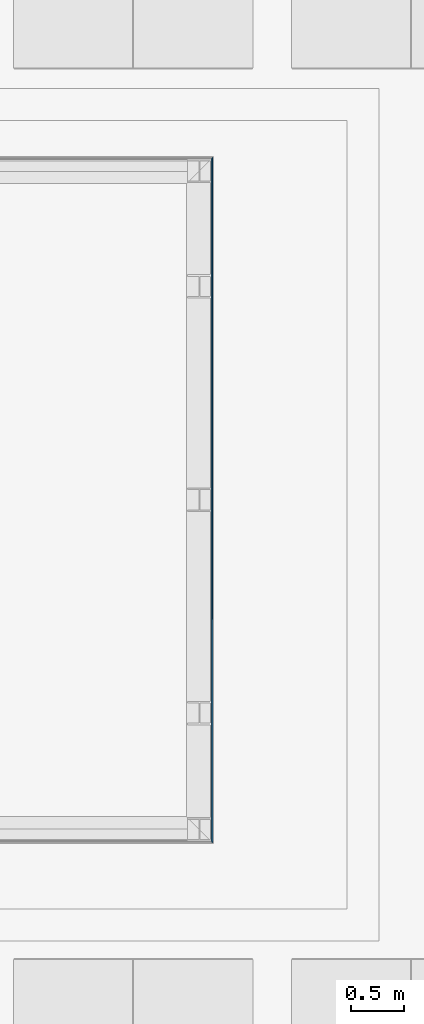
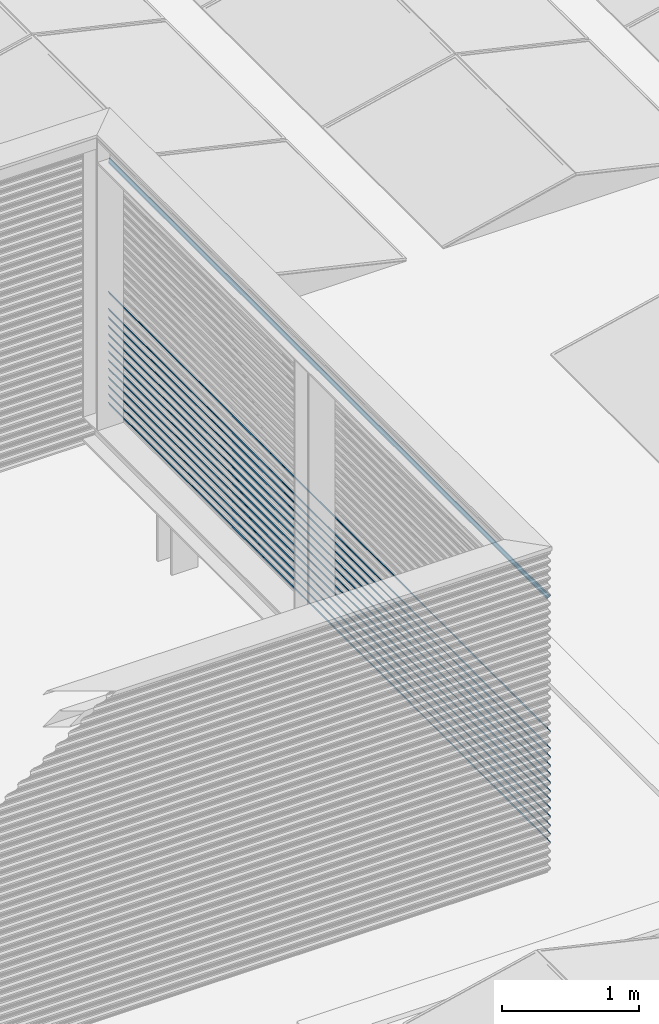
# One storey, part 40 of 63: 14 building element parts, 1 element without a shape of its own.
"""IFC2X3 building model written with IfcOpenShell, lengths in millimetres."""

from ifc_helpers import new_model, entity, si_unit, converted_unit, derived_unit, money_unit, direction, frame, origin_with_axes, place, context, subcontext, project, spatial, faceted_brep, material, type_object, element, aggregate, save


model = new_model("IFC2X3")

# Units and contexts
model_context = context("Model", 3, precision=0.01, world=origin_with_axes(), true_north=direction((0.0, 1.0)))
body_context = subcontext(model_context, "Body", "Model", "MODEL_VIEW")
ifc_project = project(units=[si_unit("LENGTHUNIT", "METRE", prefix="MILLI"), si_unit("AREAUNIT", "SQUARE_METRE"), si_unit("VOLUMEUNIT", "CUBIC_METRE"), converted_unit("PLANEANGLEUNIT", "DEGREE", entity("IfcPlaneAngleMeasure", 0.0174532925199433), si_unit("PLANEANGLEUNIT", "RADIAN"), dimensions=[0, 0, 0, 0, 0, 0, 0]), money_unit("EUR"), converted_unit("TIMEUNIT", "Year", entity("IfcTimeMeasure", 31557600.0), si_unit("TIMEUNIT", "SECOND"), dimensions=[0, 0, 1, 0, 0, 0, 0]), si_unit("MASSUNIT", "GRAM", prefix="KILO"), si_unit("THERMODYNAMICTEMPERATUREUNIT", "DEGREE_CELSIUS"), si_unit("LUMINOUSINTENSITYUNIT", "LUMEN"), si_unit("ENERGYUNIT", "JOULE", prefix="MEGA"), derived_unit("THERMALCONDUCTANCEUNIT", [(si_unit("POWERUNIT", "WATT"), 1), (si_unit("LENGTHUNIT", "METRE"), -1), (si_unit("THERMODYNAMICTEMPERATUREUNIT", "KELVIN"), -1)]), derived_unit("SPECIFICHEATCAPACITYUNIT", [(si_unit("ENERGYUNIT", "JOULE"), 1), (si_unit("MASSUNIT", "GRAM", prefix="KILO"), -1), (si_unit("THERMODYNAMICTEMPERATUREUNIT", "KELVIN"), -1)]), derived_unit("MASSDENSITYUNIT", [(si_unit("MASSUNIT", "GRAM", prefix="KILO"), 1), (si_unit("VOLUMEUNIT", "CUBIC_METRE"), -1)])], contexts=[model_context])

# Site, building, storey
site_placement = place(None, origin_with_axes())
site = spatial("IfcSite", under=ifc_project, at=site_placement, Name="<site naam>", CompositionType="ELEMENT")
building_placement = place(site_placement, origin_with_axes())
building = spatial("IfcBuilding", under=site, at=building_placement, Name="<Naam gebouw>", CompositionType="ELEMENT")
storey_placement = place(building_placement, frame((0.0, 0.0, 12770.0), z_axis=(0.0, 0.0, 1.0), x_axis=(1.0, 0.0, 0.0)))
storey = spatial("IfcBuildingStorey", under=building, at=storey_placement, Name="04 4e verdieping", CompositionType="ELEMENT", Elevation=12770.0)

# Wall, building element parts
wall_type = type_object("IfcWallType", Name="Gevelbeplating golf 18 x 2900", PredefinedType="NOTDEFINED")
wall_placement = place(storey_placement, frame((58128.00007858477, 6781.999921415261, 299.9552842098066), z_axis=(0.0, 0.0, 1.0), x_axis=(0.0, 1.0, 0.0)))
wall = element("IfcWall", 1, at=wall_placement, inside=storey, type_object=wall_type, Name="47_Binnenwand_Gevelbeplating")
ifc_material = material(Name="gevelafwerking type 3 - Aluminium RAL1036")
building_element_part_1_placement = place(wall_placement, origin_with_axes())
building_element_part_1 = element("IfcBuildingElementPart", 2, at=building_element_part_1_placement, material=ifc_material, Name="gevelafwerking type 3 - Aluminium RAL1036", context=body_context, shape_type="Brep", body=[
    faceted_brep([(3.340134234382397, 2.257351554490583, 276.4318107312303), (3.116471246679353, 2.188220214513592, 276.1123255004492), (0.9999928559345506, -7.144066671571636e-06, 266.0), (6436.000180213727, -7.144066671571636e-06, 266.0000074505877), (6433.742836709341, 2.257351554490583, 276.4318107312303), (9.041576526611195, 8.209523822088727, 284.5758788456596), (9.041576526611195, 9.041576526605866, 284.5758788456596), (3.116471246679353, 3.116471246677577, 276.1123255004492), (0.9999928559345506, 0.9999928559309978, 266.0), (6436.000180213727, 0.9999928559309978, 266.0000074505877), (6433.742836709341, 3.340134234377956, 276.4318107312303), (6433.811965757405, 3.116471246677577, 276.1123255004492), (6427.444962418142, 8.555245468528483, 285.0489101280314), (9.39813366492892, 8.555245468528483, 285.0489101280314), (15.62925573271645, 14.54421164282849, 293.3155113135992), (15.62925573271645, 15.62925573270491, 293.3155113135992), (6427.790676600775, 9.041576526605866, 284.5758788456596), (6427.444962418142, 9.398133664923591, 285.0489101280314), (6421.224997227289, 14.77518995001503, 293.6343340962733), (15.69999800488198, 14.77518995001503, 293.6343340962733), (17.99999285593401, 16.99999047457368, 304.0000000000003), (17.99999285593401, 17.99999285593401, 304.0000000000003), (6421.455977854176, 15.62925573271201, 293.3155113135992), (6421.224997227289, 15.69999800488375, 293.6343340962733), (6419.000198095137, 16.99999047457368, 304.0000208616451), (6419.000198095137, 17.99999285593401, 304.0000208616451)], [[[0, 1, 2, 3, 4]], [[1, 0, 5, 6, 7]], [[8, 2, 1, 7]], [[2, 8, 9, 3]], [[10, 4, 3, 9, 11]], [[5, 0, 4, 12, 13]], [[5, 13, 14, 15, 6]], [[7, 6, 16, 10, 11]], [[8, 7, 11, 9]], [[17, 12, 4, 10, 16]], [[14, 13, 12, 18, 19]], [[14, 19, 20, 21, 15]], [[6, 15, 22, 17, 16]], [[23, 18, 12, 17, 22]], [[20, 19, 18, 24]], [[21, 20, 24, 25]], [[15, 21, 25, 23, 22]], [[25, 24, 18, 23]]]),
])
building_element_part_2_placement = place(wall_placement, origin_with_axes())
building_element_part_2 = element("IfcBuildingElementPart", 3, at=building_element_part_2_placement, material=ifc_material, Name="gevelafwerking type 3 - Aluminium RAL1036", context=body_context, shape_type="Brep", body=[
    faceted_brep([(3.340120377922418, 2.257349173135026, 352.4317943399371), (3.116468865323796, 2.188221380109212, 352.1123255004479), (0.9999904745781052, -9.525422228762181e-06, 342.0000000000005), (6436.000175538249, -9.525422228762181e-06, 341.9999910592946), (6433.742836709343, 2.257349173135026, 352.4317943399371), (9.04157414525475, 8.209533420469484, 360.5758788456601), (9.04157414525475, 9.041574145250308, 360.5758788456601), (3.116468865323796, 3.11646886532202, 352.1123255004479), (0.9999904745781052, 0.9999904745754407, 342.0000000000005), (6436.000175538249, 0.9999904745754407, 341.9999910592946), (6433.742836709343, 3.340120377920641, 352.4317943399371), (6433.811957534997, 3.11646886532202, 352.1123255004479), (6427.444962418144, 8.555243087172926, 361.0488937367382), (9.398118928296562, 8.555243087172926, 361.0488937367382), (15.62925335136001, 14.54422113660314, 369.3155113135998), (15.62925335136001, 15.62925335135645, 369.3155113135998), (6427.790664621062, 9.041574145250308, 360.5758788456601), (6427.444962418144, 9.398118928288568, 361.0488937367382), (6421.224997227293, 14.77518756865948, 369.6343177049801), (15.69999198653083, 14.77518756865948, 369.6343177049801), (17.99999047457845, 16.99998809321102, 380.0000000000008), (17.99999047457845, 17.99999047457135, 380.0000000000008), (6421.455965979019, 15.62925335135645, 369.3155113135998), (6421.224997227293, 15.69999198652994, 369.6343177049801), (6419.000198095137, 16.99998809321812, 380.000004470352), (6419.000198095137, 17.99999047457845, 380.000004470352)], [[[0, 1, 2, 3, 4]], [[1, 0, 5, 6, 7]], [[8, 2, 1, 7]], [[2, 8, 9, 3]], [[10, 4, 3, 9, 11]], [[5, 0, 4, 12, 13]], [[5, 13, 14, 15, 6]], [[7, 6, 16, 10, 11]], [[8, 7, 11, 9]], [[17, 12, 4, 10, 16]], [[14, 13, 12, 18, 19]], [[14, 19, 20, 21, 15]], [[6, 15, 22, 17, 16]], [[23, 18, 12, 17, 22]], [[20, 19, 18, 24]], [[21, 20, 24, 25]], [[15, 21, 25, 23, 22]], [[25, 24, 18, 23]]]),
])
building_element_part_3_placement = place(wall_placement, origin_with_axes())
building_element_part_3 = element("IfcBuildingElementPart", 4, at=building_element_part_3_placement, material=ifc_material, Name="gevelafwerking type 3 - Aluminium RAL1036", context=body_context, shape_type="Brep", body=[
    faceted_brep([(3.340108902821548, 2.257349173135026, 428.431777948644), (3.116468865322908, 2.188215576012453, 428.1123255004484), (0.9999904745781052, -9.525422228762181e-06, 417.9999999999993), (6436.000180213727, -9.525422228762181e-06, 418.0000178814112), (6433.742841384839, 2.257349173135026, 428.431777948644), (9.04157414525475, 8.209545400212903, 436.5758788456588), (9.04157414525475, 9.041574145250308, 436.5758788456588), (3.116468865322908, 3.11646886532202, 428.1123255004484), (0.9999904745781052, 0.9999904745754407, 417.9999999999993), (6436.000180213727, 0.9999904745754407, 418.0000178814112), (6433.742841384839, 3.340108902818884, 428.431777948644), (6433.81196801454, 3.11646886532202, 428.1123255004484), (6427.444962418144, 8.555243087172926, 437.0488773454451), (9.398106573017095, 8.555243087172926, 437.0488773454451), (15.62925335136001, 14.54423301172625, 445.3155113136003), (15.62925335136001, 15.62925335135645, 445.3155113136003), (6427.790657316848, 9.041574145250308, 436.5758788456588), (6427.444962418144, 9.398106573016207, 437.0488773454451), (6421.224997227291, 14.77518756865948, 445.634301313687), (15.69998834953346, 14.77518756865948, 445.634301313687), (17.99999047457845, 16.99998809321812, 455.9999999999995), (17.99999047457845, 17.99999047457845, 455.9999999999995), (6421.455954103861, 15.62925335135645, 445.3155113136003), (6421.224997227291, 15.69998834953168, 445.634301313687), (6419.000198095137, 16.99998809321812, 455.9999880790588), (6419.000198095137, 17.99999047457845, 455.9999880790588)], [[[0, 1, 2, 3, 4]], [[1, 0, 5, 6, 7]], [[8, 2, 1, 7]], [[2, 8, 9, 3]], [[10, 4, 3, 9, 11]], [[5, 0, 4, 12, 13]], [[5, 13, 14, 15, 6]], [[7, 6, 16, 10, 11]], [[8, 7, 11, 9]], [[17, 12, 4, 10, 16]], [[14, 13, 12, 18, 19]], [[14, 19, 20, 21, 15]], [[6, 15, 22, 17, 16]], [[23, 18, 12, 17, 22]], [[20, 19, 18, 24]], [[21, 20, 24, 25]], [[15, 21, 25, 23, 22]], [[25, 24, 18, 23]]]),
])
building_element_part_4_placement = place(wall_placement, origin_with_axes())
building_element_part_4 = element("IfcBuildingElementPart", 5, at=building_element_part_4_placement, material=ifc_material, Name="gevelafwerking type 3 - Aluminium RAL1036", context=body_context, shape_type="Brep", body=[
    faceted_brep([(3.340125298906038, 2.257346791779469, 504.4318047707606), (3.116466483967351, 2.188216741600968, 504.1123255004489), (0.999988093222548, -1.190677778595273e-05, 493.9999999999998), (6436.000180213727, -1.190677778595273e-05, 494.0000014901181), (6433.742836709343, 2.257346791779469, 504.4318047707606), (9.041571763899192, 8.209523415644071, 512.5758788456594), (9.041571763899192, 9.041571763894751, 512.5758788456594), (3.116466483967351, 3.116466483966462, 504.1123255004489), (0.999988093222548, 0.9999880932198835, 493.9999999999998), (6436.000180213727, 0.9999880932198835, 494.0000014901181), (6433.742836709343, 3.34012529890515, 504.4318047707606), (6433.811964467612, 3.116466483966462, 504.1123255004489), (6427.444962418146, 8.555240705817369, 513.0489041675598), (9.398124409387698, 8.555240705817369, 513.0489041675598), (15.62925097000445, 14.54421119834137, 521.315511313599), (15.62925097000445, 15.6292509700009, 521.315511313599), (6427.790672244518, 9.041571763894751, 512.5758788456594), (6427.444962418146, 9.39812440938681, 513.0489041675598), (6421.224997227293, 14.77518518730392, 521.6343281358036), (15.69999191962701, 14.77518518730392, 521.6343281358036), (17.99998809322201, 16.99998571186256, 532.0), (17.99998809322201, 17.9999880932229, 532.0), (6421.45597353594, 15.6292509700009, 521.315511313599), (6421.224997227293, 15.69999191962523, 521.6343281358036), (6419.000198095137, 16.99998571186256, 532.0000149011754), (6419.000198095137, 17.9999880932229, 532.0000149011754)], [[[0, 1, 2, 3, 4]], [[1, 0, 5, 6, 7]], [[8, 2, 1, 7]], [[2, 8, 9, 3]], [[10, 4, 3, 9, 11]], [[5, 0, 4, 12, 13]], [[5, 13, 14, 15, 6]], [[7, 6, 16, 10, 11]], [[8, 7, 11, 9]], [[17, 12, 4, 10, 16]], [[14, 13, 12, 18, 19]], [[14, 19, 20, 21, 15]], [[6, 15, 22, 17, 16]], [[23, 18, 12, 17, 22]], [[20, 19, 18, 24]], [[21, 20, 24, 25]], [[15, 21, 25, 23, 22]], [[25, 24, 18, 23]]]),
])
building_element_part_5_placement = place(wall_placement, origin_with_axes())
building_element_part_5 = element("IfcBuildingElementPart", 6, at=building_element_part_5_placement, material=ifc_material, Name="gevelafwerking type 3 - Aluminium RAL1036", context=body_context, shape_type="Brep", body=[
    faceted_brep([(3.340111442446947, 2.257344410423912, 580.4317883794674), (3.116464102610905, 2.188217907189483, 580.1123255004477), (0.9999857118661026, -1.428813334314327e-05, 570.0000000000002), (6436.000223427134, -1.428813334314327e-05, 569.9999850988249), (6433.742841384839, 2.257344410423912, 580.4317883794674), (9.041569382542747, 8.209533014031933, 588.5758788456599), (9.041569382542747, 9.041569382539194, 588.5758788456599), (3.116464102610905, 3.116464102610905, 580.1123255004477), (0.9999857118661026, 0.9999857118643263, 570.0000000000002), (6436.000223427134, 0.9999857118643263, 569.9999850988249), (6433.742841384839, 3.34011144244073, 580.4317883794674), (6433.811971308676, 3.116464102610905, 580.1123255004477), (6427.444962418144, 8.555238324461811, 589.0488877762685), (9.398109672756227, 8.555238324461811, 589.0488877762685), (15.629248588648, 14.54422069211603, 597.3155113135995), (15.629248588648, 15.62924858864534, 597.3155113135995), (6427.790664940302, 9.041569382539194, 588.5758788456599), (6427.444962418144, 9.398109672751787, 589.0488877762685), (6421.224997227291, 14.77518280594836, 597.6343117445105), (15.69998590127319, 14.77518280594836, 597.6343117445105), (17.99998571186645, 16.99998333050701, 608.0000000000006), (17.99998571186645, 17.99998571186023, 608.0000000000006), (6421.455961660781, 15.62924858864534, 597.3155113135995), (6421.224997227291, 15.69998590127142, 597.6343117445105), (6419.000198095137, 16.99998333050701, 607.9999985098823), (6419.000198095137, 17.99998571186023, 607.9999985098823)], [[[0, 1, 2, 3, 4]], [[1, 0, 5, 6, 7]], [[8, 2, 1, 7]], [[2, 8, 9, 3]], [[10, 4, 3, 9, 11]], [[5, 0, 4, 12, 13]], [[5, 13, 14, 15, 6]], [[7, 6, 16, 10, 11]], [[8, 7, 11, 9]], [[17, 12, 4, 10, 16]], [[14, 13, 12, 18, 19]], [[14, 19, 20, 21, 15]], [[6, 15, 22, 17, 16]], [[23, 18, 12, 17, 22]], [[20, 19, 18, 24]], [[21, 20, 24, 25]], [[15, 21, 25, 23, 22]], [[25, 24, 18, 23]]]),
])
building_element_part_6_placement = place(wall_placement, origin_with_axes())
building_element_part_6 = element("IfcBuildingElementPart", 7, at=building_element_part_6_placement, material=ifc_material, Name="gevelafwerking type 3 - Aluminium RAL1036", context=body_context, shape_type="Brep", body=[
    faceted_brep([(3.340097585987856, 2.257342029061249, 656.4317719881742), (3.116461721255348, 2.188209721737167, 656.1123255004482), (0.9999833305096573, -1.666949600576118e-05, 645.999999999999), (6436.000218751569, -1.666949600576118e-05, 646.0000119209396), (6433.742841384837, 2.257342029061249, 656.4317719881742), (9.041567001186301, 8.209542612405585, 664.5758788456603), (9.041567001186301, 9.041567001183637, 664.5758788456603), (3.116461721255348, 3.116461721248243, 656.1123255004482), (0.9999833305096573, 0.9999833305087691, 645.999999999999), (6436.000218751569, 0.9999833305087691, 646.0000119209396), (6433.742841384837, 3.340097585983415, 656.4317719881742), (6433.811972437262, 3.116461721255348, 656.1123255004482), (6427.444962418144, 8.555235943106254, 665.0488713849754), (9.398094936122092, 8.555235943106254, 665.0488713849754), (15.62924620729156, 14.54423018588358, 673.3155113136), (15.62924620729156, 15.62924620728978, 673.3155113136), (6427.790652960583, 9.041567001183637, 664.5758788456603), (6427.444962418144, 9.398094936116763, 665.0488713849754), (6421.224997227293, 14.7751804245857, 673.6342953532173), (15.69997988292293, 14.7751804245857, 673.6342953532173), (17.99998333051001, 16.99998094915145, 683.9999999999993), (17.99998333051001, 17.99998333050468, 683.9999999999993), (6421.455949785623, 15.62924620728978, 673.3155113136), (6421.224997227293, 15.6999798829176, 673.6342953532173), (6419.000198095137, 16.99998094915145, 683.9999821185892), (6419.000198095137, 17.99998333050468, 683.9999821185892)], [[[0, 1, 2, 3, 4]], [[1, 0, 5, 6, 7]], [[8, 2, 1, 7]], [[2, 8, 9, 3]], [[10, 4, 3, 9, 11]], [[5, 0, 4, 12, 13]], [[5, 13, 14, 15, 6]], [[7, 6, 16, 10, 11]], [[8, 7, 11, 9]], [[17, 12, 4, 10, 16]], [[14, 13, 12, 18, 19]], [[14, 19, 20, 21, 15]], [[6, 15, 22, 17, 16]], [[23, 18, 12, 17, 22]], [[20, 19, 18, 24]], [[21, 20, 24, 25]], [[15, 21, 25, 23, 22]], [[25, 24, 18, 23]]]),
])
building_element_part_7_placement = place(wall_placement, origin_with_axes())
building_element_part_7 = element("IfcBuildingElementPart", 8, at=building_element_part_7_placement, material=ifc_material, Name="gevelafwerking type 3 - Aluminium RAL1036", context=body_context, shape_type="Brep", body=[
    faceted_brep([(3.340100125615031, 2.257337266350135, 808.4317824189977), (3.116456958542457, 2.188212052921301, 808.1123255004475), (0.9999785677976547, -2.143220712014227e-05, 798.0), (6436.000223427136, -2.143220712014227e-05, 797.9999791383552), (6433.742841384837, 2.257337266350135, 808.4317824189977), (9.041562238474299, 8.209530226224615, 816.5758788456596), (9.041562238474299, 9.041562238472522, 816.5758788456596), (3.116456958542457, 3.116456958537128, 808.1123255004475), (0.9999785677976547, 0.9999785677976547, 798.0), (6436.000223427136, 0.9999785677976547, 797.9999791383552), (6433.742841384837, 3.340100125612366, 808.4317824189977), (6433.811970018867, 3.116456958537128, 808.1123255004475), (6427.444962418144, 8.555231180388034, 817.048881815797), (9.398098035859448, 8.555231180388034, 817.048881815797), (15.62924144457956, 14.54421786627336, 825.3155113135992), (15.62924144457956, 15.62924144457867, 825.3155113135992), (6427.790660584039, 9.041562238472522, 816.5758788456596), (6427.444962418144, 9.398098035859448, 817.048881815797), (6421.224997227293, 14.77517566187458, 825.6343057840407), (15.69997743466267, 14.77517566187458, 825.6343057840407), (17.999978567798, 16.99997618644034, 836.0000000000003), (17.999978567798, 17.99997856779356, 836.0000000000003), (6421.455957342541, 15.62924144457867, 825.3155113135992), (6421.224997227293, 15.69997743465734, 825.6343057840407), (6419.000198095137, 16.99997618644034, 835.9999925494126), (6419.000198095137, 17.99997856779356, 835.9999925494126)], [[[0, 1, 2, 3, 4]], [[1, 0, 5, 6, 7]], [[8, 2, 1, 7]], [[2, 8, 9, 3]], [[10, 4, 3, 9, 11]], [[5, 0, 4, 12, 13]], [[5, 13, 14, 15, 6]], [[7, 6, 16, 10, 11]], [[8, 7, 11, 9]], [[17, 12, 4, 10, 16]], [[14, 13, 12, 18, 19]], [[14, 19, 20, 21, 15]], [[6, 15, 22, 17, 16]], [[23, 18, 12, 17, 22]], [[20, 19, 18, 24]], [[21, 20, 24, 25]], [[15, 21, 25, 23, 22]], [[25, 24, 18, 23]]]),
])
building_element_part_8_placement = place(wall_placement, origin_with_axes())
building_element_part_8 = element("IfcBuildingElementPart", 9, at=building_element_part_8_placement, material=ifc_material, Name="gevelafwerking type 3 - Aluminium RAL1036", context=body_context, shape_type="Brep", body=[
    faceted_brep([(3.340116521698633, 2.257334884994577, 884.4318092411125), (3.1164545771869, 2.188203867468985, 884.1123255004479), (0.9999761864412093, -2.381356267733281e-05, 874.0000000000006), (6436.000223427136, -2.381356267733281e-05, 874.00000596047), (6433.742841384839, 2.257334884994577, 884.4318092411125), (9.041559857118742, 8.209508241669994, 892.5758788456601), (9.041559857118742, 9.041559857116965, 892.5758788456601), (3.1164545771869, 3.116454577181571, 884.1123255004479), (0.9999761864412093, 0.9999761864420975, 874.0000000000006), (6436.000223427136, 0.9999761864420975, 874.00000596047), (6433.742841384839, 3.340116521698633, 884.4318092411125), (6433.811975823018, 3.116454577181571, 884.1123255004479), (6427.444962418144, 8.555228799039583, 893.0489086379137), (9.398115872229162, 8.555228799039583, 893.0489086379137), (15.629239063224, 14.54419605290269, 901.3155113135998), (15.629239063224, 15.62923906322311, 901.3155113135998), (6427.790680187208, 9.041559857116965, 892.5758788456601), (6427.444962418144, 9.39811587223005, 893.0489086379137), (6421.224997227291, 14.77517328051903, 901.6343326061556), (15.69998100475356, 14.77517328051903, 901.6343326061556), (17.99997618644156, 16.99997380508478, 911.9999999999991), (17.99997618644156, 17.999976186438, 911.9999999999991), (6421.455976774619, 15.62923906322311, 901.3155113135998), (6421.224997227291, 15.6999810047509, 901.6343326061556), (6419.000198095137, 16.99997380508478, 912.0000193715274), (6419.000198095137, 17.999976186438, 912.0000193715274)], [[[0, 1, 2, 3, 4]], [[1, 0, 5, 6, 7]], [[8, 2, 1, 7]], [[2, 8, 9, 3]], [[10, 4, 3, 9, 11]], [[5, 0, 4, 12, 13]], [[5, 13, 14, 15, 6]], [[7, 6, 16, 10, 11]], [[8, 7, 11, 9]], [[17, 12, 4, 10, 16]], [[14, 13, 12, 18, 19]], [[14, 19, 20, 21, 15]], [[6, 15, 22, 17, 16]], [[23, 18, 12, 17, 22]], [[20, 19, 18, 24]], [[21, 20, 24, 25]], [[15, 21, 25, 23, 22]], [[25, 24, 18, 23]]]),
])
building_element_part_9_placement = place(wall_placement, origin_with_axes())
building_element_part_9 = element("IfcBuildingElementPart", 10, at=building_element_part_9_placement, material=ifc_material, Name="gevelafwerking type 3 - Aluminium RAL1036", context=body_context, shape_type="Brep", body=[
    faceted_brep([(0.9999309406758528, 0.9999309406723, 2469.999999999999), (0.9999309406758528, -6.905932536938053e-05, 2469.999999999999), (6436.000266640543, -6.905932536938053e-05, 2470.000007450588), (6436.000266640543, 0.9999309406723, 2470.000007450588), (3.116409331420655, 2.188158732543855, 2459.887674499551), (3.116409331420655, 3.116409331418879, 2459.887674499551), (3.340061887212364, 2.257289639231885, 2459.568204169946), (6433.742879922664, 2.257289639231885, 2459.568204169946), (6433.742879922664, 3.340061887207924, 2459.568204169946), (6433.812007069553, 3.116409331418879, 2459.887674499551), (9.041514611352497, 8.209474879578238, 2451.424121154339), (9.041514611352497, 9.041514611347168, 2451.424121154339), (9.39806051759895, 8.555183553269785, 2450.951104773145), (6427.445005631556, 8.555183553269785, 2450.951104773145), (6427.790708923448, 9.041514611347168, 2451.424121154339), (6427.445005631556, 9.398060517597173, 2450.951104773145), (15.62919381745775, 15.62919381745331, 2442.6844886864), (15.62919381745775, 14.54415891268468, 2442.6844886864), (15.69993278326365, 14.77512803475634, 2442.365680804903), (6421.225040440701, 14.77512803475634, 2442.365680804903), (6421.456010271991, 15.62919381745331, 2442.6844886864), (6421.225040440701, 15.69993278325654, 2442.365680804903), (17.99993094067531, 17.99993094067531, 2432.0), (17.99993094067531, 16.99992855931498, 2432.0), (6419.000241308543, 16.99992855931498, 2431.999994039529), (6419.000241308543, 17.99993094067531, 2431.999994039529)], [[[0, 1, 2, 3]], [[4, 1, 0, 5]], [[4, 6, 7, 2, 1]], [[8, 9, 3, 2, 7]], [[5, 0, 3, 9]], [[10, 6, 4, 5, 11]], [[10, 12, 13, 7, 6]], [[11, 5, 9, 8, 14]], [[15, 14, 8, 7, 13]], [[12, 10, 11, 16, 17]], [[17, 18, 19, 13, 12]], [[16, 11, 14, 15, 20]], [[21, 20, 15, 13, 19]], [[18, 17, 16, 22, 23]], [[18, 23, 24, 19]], [[22, 16, 20, 21, 25]], [[24, 25, 21, 19]], [[23, 22, 25, 24]]]),
])
building_element_part_10_placement = place(wall_placement, origin_with_axes())
building_element_part_10 = element("IfcBuildingElementPart", 11, at=building_element_part_10_placement, material=ifc_material, Name="gevelafwerking type 3 - Aluminium RAL1036", context=body_context, shape_type="Brep", body=[
    faceted_brep([(3.340113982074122, 2.257339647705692, 732.4317988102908), (3.116459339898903, 2.188210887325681, 732.1123255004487), (0.9999809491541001, -1.905085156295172e-05, 721.9999999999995), (6436.000223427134, -1.905085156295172e-05, 721.9999955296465), (6433.742841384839, 2.257339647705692, 732.4317988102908), (9.041564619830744, 8.209520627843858, 740.5758788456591), (9.041564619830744, 9.04156461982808, 740.5758788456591), (3.116459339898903, 3.116459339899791, 732.1123255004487), (0.9999809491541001, 0.9999809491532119, 721.9999999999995), (6436.000223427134, 0.9999809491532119, 721.9999955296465), (6433.742841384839, 3.340113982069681, 732.4317988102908), (6433.811973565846, 3.116459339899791, 732.1123255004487), (6427.44496241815, 8.555233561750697, 741.0488982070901), (9.398112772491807, 8.555233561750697, 741.0488982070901), (15.629243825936, 14.54420837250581, 749.3155113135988), (15.629243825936, 15.62924382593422, 749.3155113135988), (6427.790672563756, 9.04156461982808, 740.5758788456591), (6427.44496241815, 9.398112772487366, 741.0488982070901), (6421.224997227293, 14.77517804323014, 749.6343221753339), (15.69998345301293, 14.77517804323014, 749.6343221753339), (17.99998094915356, 16.99997856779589, 759.9999999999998), (17.99998094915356, 17.99998094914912, 759.9999999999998), (6421.455969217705, 15.62924382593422, 749.3155113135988), (6421.224997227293, 15.69998345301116, 749.6343221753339), (6419.000198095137, 16.99997856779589, 760.0000089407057), (6419.000198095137, 17.99998094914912, 760.0000089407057)], [[[0, 1, 2, 3, 4]], [[1, 0, 5, 6, 7]], [[8, 2, 1, 7]], [[2, 8, 9, 3]], [[10, 4, 3, 9, 11]], [[5, 0, 4, 12, 13]], [[5, 13, 14, 15, 6]], [[7, 6, 16, 10, 11]], [[8, 7, 11, 9]], [[17, 12, 4, 10, 16]], [[14, 13, 12, 18, 19]], [[14, 19, 20, 21, 15]], [[6, 15, 22, 17, 16]], [[23, 18, 12, 17, 22]], [[20, 19, 18, 24]], [[21, 20, 24, 25]], [[15, 21, 25, 23, 22]], [[25, 24, 18, 23]]]),
])
building_element_part_11_placement = place(wall_placement, origin_with_axes())
building_element_part_11 = element("IfcBuildingElementPart", 12, at=building_element_part_11_placement, material=ifc_material, Name="gevelafwerking type 3 - Aluminium RAL1036", context=body_context, shape_type="Brep", body=[
    faceted_brep([(3.34010266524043, 2.25733250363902, 960.4317928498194), (3.116452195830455, 2.188205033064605, 960.1123255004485), (0.9999738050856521, -2.619491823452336e-05, 949.9999999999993), (6436.000223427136, -2.619491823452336e-05, 949.9999895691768), (6433.742841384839, 2.25733250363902, 960.4317928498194), (9.041557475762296, 8.209517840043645, 968.5758788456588), (9.041557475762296, 9.041557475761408, 968.5758788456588), (3.116452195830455, 3.116452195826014, 960.1123255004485), (0.9999738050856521, 0.9999738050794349, 949.9999999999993), (6436.000223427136, 0.9999738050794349, 949.9999895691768), (6433.742841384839, 3.340102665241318, 960.4317928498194), (6433.811972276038, 3.116452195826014, 960.1123255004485), (6427.444962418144, 8.55522641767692, 969.0488922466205), (9.398101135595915, 8.55522641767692, 969.0488922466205), (15.62923668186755, 14.54420554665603, 977.3155113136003), (15.62923668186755, 15.62923668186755, 977.3155113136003), (6427.790668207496, 9.041557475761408, 968.5758788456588), (6427.444962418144, 9.398101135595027, 969.0488922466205), (6421.224997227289, 14.77517089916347, 977.6343162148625), (15.69997498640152, 14.77517089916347, 977.6343162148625), (17.99997380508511, 16.99997142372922, 987.9999999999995), (17.99997380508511, 17.99997380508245, 987.9999999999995), (6421.45596489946, 15.62923668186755, 977.3155113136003), (6421.224997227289, 15.69997498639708, 977.6343162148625), (6419.000198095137, 16.99997142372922, 988.0000029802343), (6419.000198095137, 17.99997380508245, 988.0000029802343)], [[[0, 1, 2, 3, 4]], [[1, 0, 5, 6, 7]], [[8, 2, 1, 7]], [[2, 8, 9, 3]], [[10, 4, 3, 9, 11]], [[5, 0, 4, 12, 13]], [[5, 13, 14, 15, 6]], [[7, 6, 16, 10, 11]], [[8, 7, 11, 9]], [[17, 12, 4, 10, 16]], [[14, 13, 12, 18, 19]], [[14, 19, 20, 21, 15]], [[6, 15, 22, 17, 16]], [[23, 18, 12, 17, 22]], [[20, 19, 18, 24]], [[21, 20, 24, 25]], [[15, 21, 25, 23, 22]], [[25, 24, 18, 23]]]),
])
building_element_part_12_placement = place(wall_placement, origin_with_axes())
building_element_part_12 = element("IfcBuildingElementPart", 13, at=building_element_part_12_placement, material=ifc_material, Name="gevelafwerking type 3 - Aluminium RAL1036", context=body_context, shape_type="Brep", body=[
    faceted_brep([(3.340105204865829, 2.257327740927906, 1112.431803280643), (3.116447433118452, 2.188198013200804, 1112.112325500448), (0.9999690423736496, -3.095762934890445e-05, 1102.0), (6436.000223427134, -3.095762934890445e-05, 1102.0), (6433.742841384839, 2.257327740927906, 1112.431803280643), (9.041552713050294, 8.209505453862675, 1120.57587884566), (9.041552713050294, 9.041552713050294, 1120.57587884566), (3.116447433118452, 3.116447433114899, 1112.112325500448), (0.9999690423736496, 0.9999690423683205, 1102.0), (6436.000223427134, 0.9999690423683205, 1102.0), (6433.742841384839, 3.340105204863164, 1112.431803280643), (6433.811974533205, 3.116447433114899, 1112.112325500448), (6427.444962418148, 8.555221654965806, 1121.048902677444), (9.398104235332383, 8.555221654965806, 1121.048902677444), (15.62923191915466, 14.54419322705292, 1129.315511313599), (15.62923191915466, 15.62923191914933, 1129.315511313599), (6427.79067583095, 9.041552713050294, 1120.57587884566), (6427.444962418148, 9.398104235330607, 1121.048902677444), (6421.225040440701, 14.77516613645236, 1129.634326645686), (15.69997253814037, 14.77516613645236, 1129.634326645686), (17.99996904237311, 16.99996666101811, 1139.999999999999), (17.99996904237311, 17.99996904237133, 1139.999999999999), (6421.456014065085, 15.62923191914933, 1129.315511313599), (6421.225040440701, 15.69997253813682, 1129.634326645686), (6419.000241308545, 16.99996666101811, 1140.000013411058), (6419.000241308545, 17.99996904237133, 1140.000013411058)], [[[0, 1, 2, 3, 4]], [[1, 0, 5, 6, 7]], [[8, 2, 1, 7]], [[2, 8, 9, 3]], [[10, 4, 3, 9, 11]], [[5, 0, 4, 12, 13]], [[5, 13, 14, 15, 6]], [[7, 6, 16, 10, 11]], [[8, 7, 11, 9]], [[17, 12, 4, 10, 16]], [[14, 13, 12, 18, 19]], [[14, 19, 20, 21, 15]], [[6, 15, 22, 17, 16]], [[23, 18, 12, 17, 22]], [[20, 19, 18, 24]], [[21, 20, 24, 25]], [[15, 21, 25, 23, 22]], [[25, 24, 18, 23]]]),
])
building_element_part_13_placement = place(wall_placement, origin_with_axes())
building_element_part_13 = element("IfcBuildingElementPart", 14, at=building_element_part_13_placement, material=ifc_material, Name="gevelafwerking type 3 - Aluminium RAL1036", context=body_context, shape_type="Brep", body=[
    faceted_brep([(3.340088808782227, 2.257330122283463, 1036.431776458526), (3.116449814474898, 2.188196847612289, 1036.112325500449), (0.9999714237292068, -2.85762737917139e-05, 1026.0), (6436.000218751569, -2.85762737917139e-05, 1026.000016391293), (6433.742841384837, 2.257330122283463, 1036.431776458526), (9.041555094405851, 8.209527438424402, 1044.575878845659), (9.041555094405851, 9.041555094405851, 1044.575878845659), (3.116449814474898, 3.116449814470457, 1036.112325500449), (0.9999714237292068, 0.9999714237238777, 1026.0), (6436.000218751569, 0.9999714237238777, 1026.000016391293), (6433.742841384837, 3.340088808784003, 1036.431776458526), (6433.811973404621, 3.116449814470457, 1036.112325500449), (6427.444962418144, 8.555224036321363, 1045.048875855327), (9.398086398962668, 8.555224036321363, 1045.048875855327), (15.62923430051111, 14.54421504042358, 1053.315511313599), (15.62923430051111, 15.629234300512, 1053.315511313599), (6427.790656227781, 9.041555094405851, 1044.575878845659), (6427.444962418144, 9.39808639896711, 1045.048875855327), (6421.2250404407, 14.77516851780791, 1053.634299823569), (15.69996896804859, 14.77516851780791, 1053.634299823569), (17.99997142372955, 16.99996904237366, 1064.0), (17.99997142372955, 17.99997142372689, 1064.0), (6421.455994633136, 15.629234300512, 1053.315511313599), (6421.2250404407, 15.69996896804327, 1053.634299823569), (6419.000241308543, 16.99996904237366, 1063.999986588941), (6419.000241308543, 17.99997142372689, 1063.999986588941)], [[[0, 1, 2, 3, 4]], [[1, 0, 5, 6, 7]], [[8, 2, 1, 7]], [[2, 8, 9, 3]], [[10, 4, 3, 9, 11]], [[5, 0, 4, 12, 13]], [[5, 13, 14, 15, 6]], [[7, 6, 16, 10, 11]], [[8, 7, 11, 9]], [[17, 12, 4, 10, 16]], [[14, 13, 12, 18, 19]], [[14, 19, 20, 21, 15]], [[6, 15, 22, 17, 16]], [[23, 18, 12, 17, 22]], [[20, 19, 18, 24]], [[21, 20, 24, 25]], [[15, 21, 25, 23, 22]], [[25, 24, 18, 23]]]),
])
building_element_part_14_placement = place(wall_placement, origin_with_axes())
building_element_part_14 = element("IfcBuildingElementPart", 15, at=building_element_part_14_placement, material=ifc_material, Name="gevelafwerking type 3 - Aluminium RAL1036", context=body_context, shape_type="Brep", body=[
    faceted_brep([(3.340079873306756, 2.257325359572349, 1264.431770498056), (3.116445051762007, 2.18819337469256, 1264.112325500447), (0.9999666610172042, -3.333898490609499e-05, 1254.0), (6436.000218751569, -3.333898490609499e-05, 1254.000010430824), (6433.742841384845, 2.257325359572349, 1264.431770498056), (9.041550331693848, 8.209527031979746, 1272.575878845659), (9.041550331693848, 9.041550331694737, 1272.575878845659), (3.116445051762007, 3.116445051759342, 1264.112325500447), (0.9999666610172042, 0.9999666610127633, 1254.0), (6436.000218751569, 0.9999666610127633, 1254.000010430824), (6433.81197211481, 3.116445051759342, 1264.112325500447), (6433.742841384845, 3.340079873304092, 1264.431770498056), (6427.44496241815, 8.555219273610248, 1273.048913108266), (9.398109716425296, 8.555219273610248, 1273.048913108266), (15.62922953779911, 14.54418328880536, 1281.315511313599), (15.62922953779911, 15.62922953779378, 1281.315511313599), (6427.790681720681, 9.041550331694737, 1272.575878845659), (6427.44496241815, 9.398109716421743, 1273.048913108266), (6421.225034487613, 14.7751637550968, 1281.6342938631), (15.69996288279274, 14.7751637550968, 1281.6342938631), (17.99996666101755, 16.99996427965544, 1292.0), (17.99996666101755, 17.99996666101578, 1292.0), (6421.455980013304, 15.62922953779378, 1281.315511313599), (6421.225034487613, 15.69996288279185, 1281.6342938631), (6419.000241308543, 16.99996427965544, 1291.999980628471), (6419.000241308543, 17.99996666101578, 1291.999980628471)], [[[0, 1, 2, 3, 4]], [[1, 0, 5, 6, 7]], [[8, 2, 1, 7]], [[2, 8, 9, 3]], [[9, 10, 11, 4, 3]], [[5, 0, 4, 12, 13]], [[5, 13, 14, 15, 6]], [[7, 6, 16, 11, 10]], [[8, 7, 10, 9]], [[11, 16, 17, 12, 4]], [[14, 13, 12, 18, 19]], [[14, 19, 20, 21, 15]], [[6, 15, 22, 17, 16]], [[17, 22, 23, 18, 12]], [[20, 19, 18, 24]], [[21, 20, 24, 25]], [[15, 21, 25, 23, 22]], [[18, 23, 25, 24]]]),
])
aggregate(wall, [building_element_part_1, building_element_part_2, building_element_part_3, building_element_part_4, building_element_part_5, building_element_part_6, building_element_part_7, building_element_part_8, building_element_part_9, building_element_part_10, building_element_part_11, building_element_part_12, building_element_part_13, building_element_part_14])

save(model, "model.ifc")
